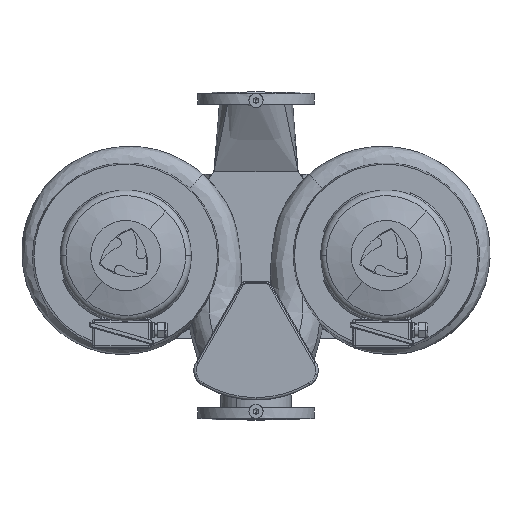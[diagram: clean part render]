
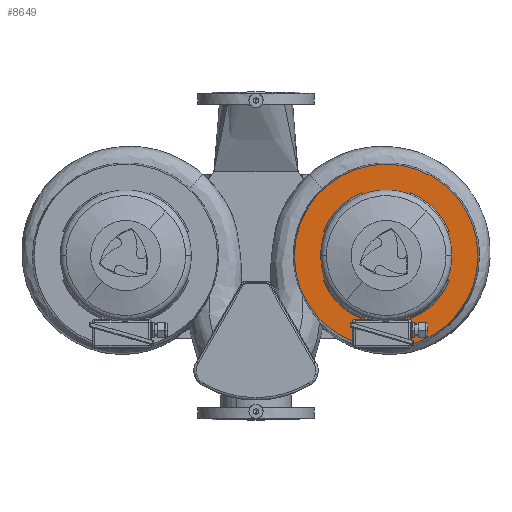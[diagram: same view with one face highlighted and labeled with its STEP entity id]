
A CAD part, top view. The second image highlights one B-rep face of the part: STEP entity #8649.
In plain terms, the highlighted planar face has unit normal (0, 0, 1) as drawn and (1, 0, 0) by its records, which use the part's own axes.
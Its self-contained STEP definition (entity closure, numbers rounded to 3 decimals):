
#8649=ADVANCED_FACE('',(#18469,#18470),#18471,.T.);
#8673=EDGE_CURVE('',#18510,#18511,#18512,.T.);
#8697=EDGE_CURVE('',#18554,#18555,#18556,.T.);
#8705=EDGE_CURVE('',#18564,#18567,#18568,.T.);
#8713=EDGE_CURVE('',#18576,#18579,#18580,.T.);
#8719=EDGE_CURVE('',#18583,#18555,#18588,.T.);
#8721=EDGE_CURVE('',#18590,#18567,#18591,.T.);
#8729=EDGE_CURVE('',#18602,#18598,#18603,.T.);
#8737=EDGE_CURVE('',#18613,#18609,#18614,.T.);
#8745=EDGE_CURVE('',#18620,#18623,#18624,.T.);
#8755=EDGE_CURVE('',#18634,#18564,#18637,.T.);
#8761=EDGE_CURVE('',#18642,#18576,#18645,.T.);
#8769=EDGE_CURVE('',#18653,#18648,#18656,.T.);
#8771=EDGE_CURVE('',#18579,#18598,#18658,.T.);
#8775=EDGE_CURVE('',#18648,#18609,#18662,.T.);
#8779=EDGE_CURVE('',#18623,#18554,#18666,.T.);
#8783=EDGE_CURVE('',#18590,#18642,#18670,.T.);
#8787=EDGE_CURVE('',#18602,#18653,#18674,.T.);
#8789=EDGE_CURVE('',#18583,#18634,#18676,.T.);
#8793=EDGE_CURVE('',#18511,#18510,#18680,.T.);
#8795=EDGE_CURVE('',#18613,#18620,#18682,.T.);
#18469=FACE_OUTER_BOUND('',#37615,.T.);
#18470=FACE_BOUND('',#37616,.T.);
#18471=PLANE('',#37617);
#18510=VERTEX_POINT('',#37658);
#18511=VERTEX_POINT('',#37659);
#18512=CIRCLE('',#37660,196.0);
#18554=VERTEX_POINT('',#37714);
#18555=VERTEX_POINT('',#37715);
#18556=CIRCLE('',#37716,132.799);
#18564=VERTEX_POINT('',#37736);
#18567=VERTEX_POINT('',#37749);
#18568=CIRCLE('',#37750,132.799);
#18576=VERTEX_POINT('',#37770);
#18579=VERTEX_POINT('',#37783);
#18580=CIRCLE('',#37784,132.799);
#18583=VERTEX_POINT('',#37788);
#18588=LINE('',#37805,#37806);
#18590=VERTEX_POINT('',#37809);
#18591=LINE('',#37810,#37811);
#18598=VERTEX_POINT('',#37831);
#18602=VERTEX_POINT('',#37845);
#18603=LINE('',#37846,#37847);
#18609=VERTEX_POINT('',#37866);
#18613=VERTEX_POINT('',#37880);
#18614=LINE('',#37881,#37882);
#18620=VERTEX_POINT('',#37901);
#18623=VERTEX_POINT('',#37914);
#18624=LINE('',#37915,#37916);
#18634=VERTEX_POINT('',#37941);
#18637=LINE('',#37954,#37955);
#18642=VERTEX_POINT('',#37963);
#18645=LINE('',#37976,#37977);
#18648=VERTEX_POINT('',#37981);
#18653=VERTEX_POINT('',#37998);
#18656=LINE('',#38011,#38012);
#18658=CIRCLE('',#38015,132.799);
#18662=CIRCLE('',#38021,132.799);
#18666=CIRCLE('',#38027,132.799);
#18670=CIRCLE('',#38033,144.0);
#18674=CIRCLE('',#38039,144.0);
#18676=CIRCLE('',#38042,144.0);
#18680=CIRCLE('',#38048,196.0);
#18682=CIRCLE('',#38051,144.0);
#37615=EDGE_LOOP('',(#57195,#57196));
#37616=EDGE_LOOP('',(#57197,#57198,#57199,#57200,#57201,#57202,#57203,#57204,#57205,#57206,#57207,#57208,#57209,#57210,#57211,#57212,#57213,#57214));
#37617=AXIS2_PLACEMENT_3D('',#57215,#57216,#57217);
#37658=CARTESIAN_POINT('',(20.0,196.0,0.0));
#37659=CARTESIAN_POINT('',(20.0,-196.0,0.));
#37660=AXIS2_PLACEMENT_3D('',#57317,#57318,#57319);
#37714=CARTESIAN_POINT('',(20.0,-132.799,0.));
#37715=CARTESIAN_POINT('',(20.0,-123.51,-48.794));
#37716=AXIS2_PLACEMENT_3D('',#57353,#57354,#57355);
#37736=CARTESIAN_POINT('',(20.0,-48.794,-123.51));
#37749=CARTESIAN_POINT('',(20.0,48.794,-123.51));
#37750=AXIS2_PLACEMENT_3D('',#57359,#57360,#57361);
#37770=CARTESIAN_POINT('',(20.0,123.51,-48.794));
#37783=CARTESIAN_POINT('',(20.0,132.799,0.));
#37784=AXIS2_PLACEMENT_3D('',#57365,#57366,#57367);
#37788=CARTESIAN_POINT('',(20.0,-134.395,-51.711));
#37805=CARTESIAN_POINT('',(20.0,-134.395,-51.711));
#37806=VECTOR('',#57369,1.0);
#37809=CARTESIAN_POINT('',(20.0,51.711,-134.395));
#37810=CARTESIAN_POINT('',(20.0,51.711,-134.395));
#37811=VECTOR('',#57370,1.0);
#37831=CARTESIAN_POINT('',(20.0,123.51,48.794));
#37845=CARTESIAN_POINT('',(20.0,134.395,51.711));
#37846=CARTESIAN_POINT('',(20.0,134.395,51.711));
#37847=VECTOR('',#57372,1.0);
#37866=CARTESIAN_POINT('',(20.0,-48.794,123.51));
#37880=CARTESIAN_POINT('',(20.0,-51.711,134.395));
#37881=CARTESIAN_POINT('',(20.0,-51.711,134.395));
#37882=VECTOR('',#57374,1.0);
#37901=CARTESIAN_POINT('',(20.0,-134.395,51.711));
#37914=CARTESIAN_POINT('',(20.0,-123.51,48.794));
#37915=CARTESIAN_POINT('',(20.0,-134.395,51.711));
#37916=VECTOR('',#57376,1.0);
#37941=CARTESIAN_POINT('',(20.0,-51.711,-134.395));
#37954=CARTESIAN_POINT('',(20.0,-51.711,-134.395));
#37955=VECTOR('',#57379,1.0);
#37963=CARTESIAN_POINT('',(20.0,134.395,-51.711));
#37976=CARTESIAN_POINT('',(20.0,134.395,-51.711));
#37977=VECTOR('',#57381,1.0);
#37981=CARTESIAN_POINT('',(20.0,48.794,123.51));
#37998=CARTESIAN_POINT('',(20.0,51.711,134.395));
#38011=CARTESIAN_POINT('',(20.0,51.711,134.395));
#38012=VECTOR('',#57383,1.0);
#38015=AXIS2_PLACEMENT_3D('',#57384,#57385,#57386);
#38021=AXIS2_PLACEMENT_3D('',#57390,#57391,#57392);
#38027=AXIS2_PLACEMENT_3D('',#57396,#57397,#57398);
#38033=AXIS2_PLACEMENT_3D('',#57402,#57403,#57404);
#38039=AXIS2_PLACEMENT_3D('',#57408,#57409,#57410);
#38042=AXIS2_PLACEMENT_3D('',#57411,#57412,#57413);
#38048=AXIS2_PLACEMENT_3D('',#57417,#57418,#57419);
#38051=AXIS2_PLACEMENT_3D('',#57420,#57421,#57422);
#57195=ORIENTED_EDGE('',*,*,#8673,.T.);
#57196=ORIENTED_EDGE('',*,*,#8793,.T.);
#57197=ORIENTED_EDGE('',*,*,#8795,.F.);
#57198=ORIENTED_EDGE('',*,*,#8737,.T.);
#57199=ORIENTED_EDGE('',*,*,#8775,.F.);
#57200=ORIENTED_EDGE('',*,*,#8769,.F.);
#57201=ORIENTED_EDGE('',*,*,#8787,.F.);
#57202=ORIENTED_EDGE('',*,*,#8729,.T.);
#57203=ORIENTED_EDGE('',*,*,#8771,.F.);
#57204=ORIENTED_EDGE('',*,*,#8713,.F.);
#57205=ORIENTED_EDGE('',*,*,#8761,.F.);
#57206=ORIENTED_EDGE('',*,*,#8783,.F.);
#57207=ORIENTED_EDGE('',*,*,#8721,.T.);
#57208=ORIENTED_EDGE('',*,*,#8705,.F.);
#57209=ORIENTED_EDGE('',*,*,#8755,.F.);
#57210=ORIENTED_EDGE('',*,*,#8789,.F.);
#57211=ORIENTED_EDGE('',*,*,#8719,.T.);
#57212=ORIENTED_EDGE('',*,*,#8697,.F.);
#57213=ORIENTED_EDGE('',*,*,#8779,.F.);
#57214=ORIENTED_EDGE('',*,*,#8745,.F.);
#57215=CARTESIAN_POINT('',(20.0,170.0,0.0));
#57216=DIRECTION('',(1.0,0.0,0.0));
#57217=DIRECTION('',(0.0,0.0,-1.0));
#57317=CARTESIAN_POINT('',(20.0,0.0,0.0));
#57318=DIRECTION('',(1.0,0.0,0.0));
#57319=DIRECTION('',(0.0,1.0,0.0));
#57353=CARTESIAN_POINT('',(20.0,0.0,0.0));
#57354=DIRECTION('',(1.0,0.0,0.0));
#57355=DIRECTION('',(0.0,1.0,0.0));
#57359=CARTESIAN_POINT('',(20.0,0.0,0.0));
#57360=DIRECTION('',(1.0,0.0,0.0));
#57361=DIRECTION('',(0.0,1.0,0.0));
#57365=CARTESIAN_POINT('',(20.0,0.0,0.0));
#57366=DIRECTION('',(1.0,0.0,0.0));
#57367=DIRECTION('',(0.0,1.0,0.0));
#57369=DIRECTION('',(0.,0.966,0.259));
#57370=DIRECTION('',(0.,-0.259,0.966));
#57372=DIRECTION('',(0.,-0.966,-0.259));
#57374=DIRECTION('',(0.,0.259,-0.966));
#57376=DIRECTION('',(0.,0.966,-0.259));
#57379=DIRECTION('',(0.,0.259,0.966));
#57381=DIRECTION('',(0.,-0.966,0.259));
#57383=DIRECTION('',(0.,-0.259,-0.966));
#57384=CARTESIAN_POINT('',(20.0,0.0,0.0));
#57385=DIRECTION('',(1.0,0.0,0.0));
#57386=DIRECTION('',(0.0,1.0,0.0));
#57390=CARTESIAN_POINT('',(20.0,0.0,0.0));
#57391=DIRECTION('',(1.0,0.0,0.0));
#57392=DIRECTION('',(0.0,1.0,0.0));
#57396=CARTESIAN_POINT('',(20.0,0.0,0.0));
#57397=DIRECTION('',(1.0,0.0,0.0));
#57398=DIRECTION('',(0.0,1.0,0.0));
#57402=CARTESIAN_POINT('',(20.0,0.0,0.0));
#57403=DIRECTION('',(1.0,0.0,0.0));
#57404=DIRECTION('',(0.0,1.0,0.0));
#57408=CARTESIAN_POINT('',(20.0,0.0,0.0));
#57409=DIRECTION('',(1.0,0.0,0.0));
#57410=DIRECTION('',(0.0,1.0,0.0));
#57411=CARTESIAN_POINT('',(20.0,0.0,0.0));
#57412=DIRECTION('',(1.0,0.0,0.0));
#57413=DIRECTION('',(0.0,1.0,0.0));
#57417=CARTESIAN_POINT('',(20.0,0.0,0.0));
#57418=DIRECTION('',(1.0,0.0,0.0));
#57419=DIRECTION('',(0.0,1.0,0.0));
#57420=CARTESIAN_POINT('',(20.0,0.0,0.0));
#57421=DIRECTION('',(1.0,0.0,0.0));
#57422=DIRECTION('',(0.0,1.0,0.0));
